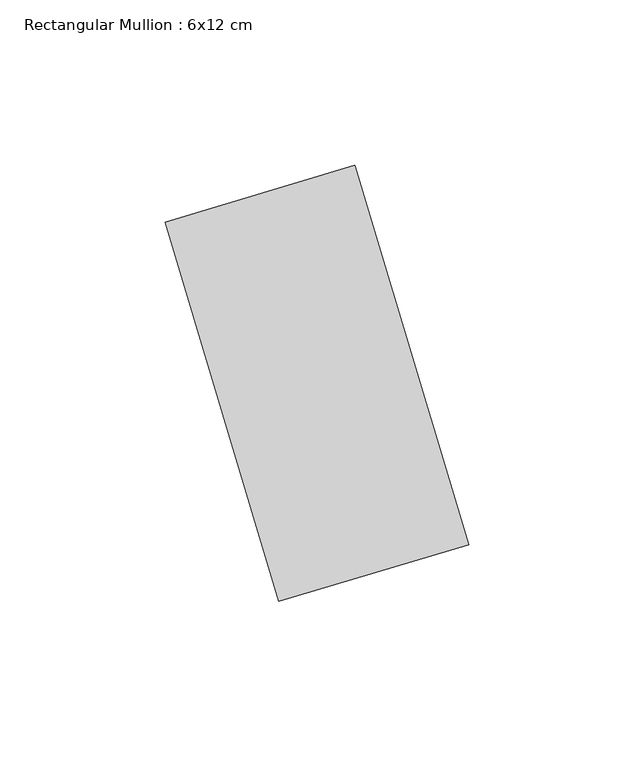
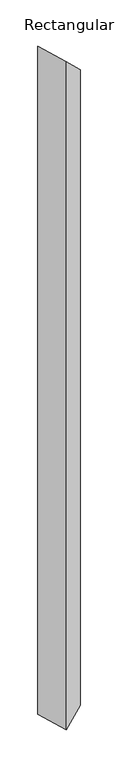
"""IFC4 building model written with IfcOpenShell, lengths in millimetres: member geometry, Rectangular Mullion : 6x12 cm."""

from ifc_helpers import new_model, si_unit, frame, origin, place, context, project, spatial, polyline, outline, extrude, source, transform, mapped, element, save


def rectangular_mullion_6x12_cm_d0224d13(model_context):
    return source(origin(), model_context, "Body", "SweptSolid", [
        extrude(outline(polyline([(71.6654434, -60.0), (11.6654434, 0.0), (2488.3345566, 0.0), (2428.3345566, -60.0), (71.6654434, -60.0)])), frame((-11.4939154, 78.9099863, 0.0), z_axis=(-0.28734788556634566, 0.9578262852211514, 0.0), x_axis=(0.0, 0.0, -1.0)), (0.0, 0.0, 1.0), 120.0),
    ])


if __name__ == "__main__":
    model = new_model("IFC4")
    model_context = context("Model", 3, world=origin())
    ifc_project = project(units=[si_unit("LENGTHUNIT", "METRE", prefix="MILLI")], contexts=[model_context])
    site = spatial("IfcSite", under=ifc_project)
    building = spatial("IfcBuilding", under=site)
    placement = place(None, origin())
    rectangular_mullion_6x12_cm_shape = rectangular_mullion_6x12_cm_d0224d13(model_context)
    element("IfcMember", 1, ObjectType="Rectangular Mullion : 6x12 cm", at=placement, inside=building, context=model_context, shape_type="MappedRepresentation", body=[
        mapped(rectangular_mullion_6x12_cm_shape, transform((0.0, 0.0, 0.0), x_axis=(1.0, 0.0, 0.0), y_axis=(0.0, 1.0, 0.0), z_axis=(0.0, 0.0, 1.0))),
    ])
    save(model, "model.ifc")
